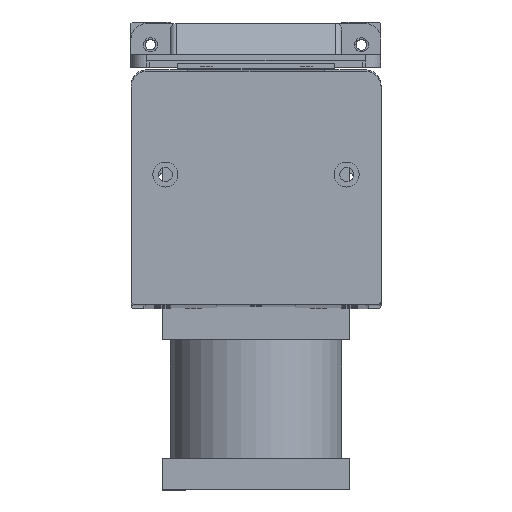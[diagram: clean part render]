
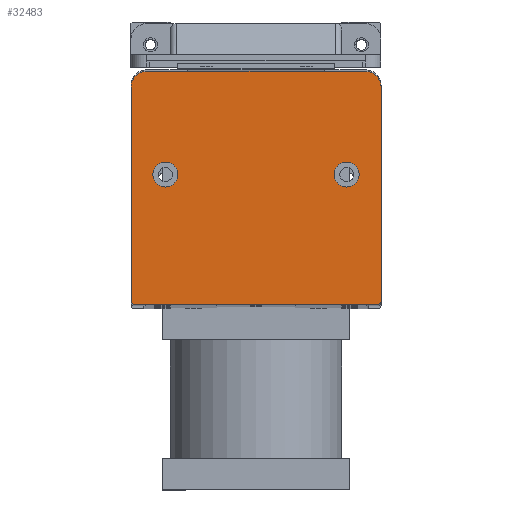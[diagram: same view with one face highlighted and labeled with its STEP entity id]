
A CAD part, top view. The second image highlights one B-rep face of the part: STEP entity #32483.
In plain terms, the highlighted planar face has unit normal (0, 0, 1).
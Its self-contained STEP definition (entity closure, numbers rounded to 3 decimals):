
#85 = DIRECTION ( 'NONE',  ( 1., 0., 0. ) ) ;
#191 = EDGE_LOOP ( 'NONE', ( #30785, #29824 ) ) ;
#502 = AXIS2_PLACEMENT_3D ( 'NONE', #11488, #29528, #14106 ) ;
#679 = ORIENTED_EDGE ( 'NONE', *, *, #20882, .T. ) ;
#1172 = VERTEX_POINT ( 'NONE', #14876 ) ;
#1366 = ORIENTED_EDGE ( 'NONE', *, *, #31028, .F. ) ;
#1560 = CARTESIAN_POINT ( 'NONE',  ( 7., 41.5, 10. ) ) ;
#1722 = CARTESIAN_POINT ( 'NONE',  ( 69., 41.5, 10. ) ) ;
#2018 = CIRCLE ( 'NONE', #24853, 4. ) ;
#2083 = EDGE_CURVE ( 'NONE', #1172, #32348, #31795, .T. ) ;
#3447 = DIRECTION ( 'NONE',  ( 0., 0., 1. ) ) ;
#3546 = CARTESIAN_POINT ( 'NONE',  ( 69., 41.5, 10. ) ) ;
#4196 = LINE ( 'NONE', #11334, #11828 ) ;
#4269 = DIRECTION ( 'NONE',  ( 1., 0., 0. ) ) ;
#4652 = CARTESIAN_POINT ( 'NONE',  ( 65., 41.5, 10. ) ) ;
#4994 = EDGE_CURVE ( 'NONE', #19519, #20324, #22262, .T. ) ;
#5008 = CARTESIAN_POINT ( 'NONE',  ( 80., 69.5, 10. ) ) ;
#5036 = DIRECTION ( 'NONE',  ( 0., 0., 1. ) ) ;
#5340 = DIRECTION ( 'NONE',  ( 0., 0., 1. ) ) ;
#5434 = CARTESIAN_POINT ( 'NONE',  ( 15., 41.5, 10. ) ) ;
#5517 = LINE ( 'NONE', #27929, #11541 ) ;
#5624 = CIRCLE ( 'NONE', #13478, 1. ) ;
#6106 = DIRECTION ( 'NONE',  ( 1., 0., 0. ) ) ;
#6753 = AXIS2_PLACEMENT_3D ( 'NONE', #20497, #5036, #23111 ) ;
#7050 = EDGE_CURVE ( 'NONE', #10091, #7713, #5517, .T. ) ;
#7428 = CARTESIAN_POINT ( 'NONE',  ( 0., 74.5, 10. ) ) ;
#7713 = VERTEX_POINT ( 'NONE', #5008 ) ;
#7960 = CARTESIAN_POINT ( 'NONE',  ( 11., 41.5, 10. ) ) ;
#8545 = CARTESIAN_POINT ( 'NONE',  ( 0., 1., 10. ) ) ;
#8720 = AXIS2_PLACEMENT_3D ( 'NONE', #28314, #12858, #30901 ) ;
#9891 = DIRECTION ( 'NONE',  ( 0., 1., 0. ) ) ;
#10027 = DIRECTION ( 'NONE',  ( 0., -1., 0. ) ) ;
#10091 = VERTEX_POINT ( 'NONE', #11479 ) ;
#10545 = DIRECTION ( 'NONE',  ( 1., 0., 0. ) ) ;
#10631 = CARTESIAN_POINT ( 'NONE',  ( 5., 74.5, 10. ) ) ;
#11226 = CARTESIAN_POINT ( 'NONE',  ( 1., 0., 10. ) ) ;
#11334 = CARTESIAN_POINT ( 'NONE',  ( 80., 74.5, 10. ) ) ;
#11479 = CARTESIAN_POINT ( 'NONE',  ( 80., 1., 10. ) ) ;
#11488 = CARTESIAN_POINT ( 'NONE',  ( 11., 41.5, 10. ) ) ;
#11541 = VECTOR ( 'NONE', #9891, 1000. ) ;
#11712 = LINE ( 'NONE', #7428, #30677 ) ;
#11828 = VECTOR ( 'NONE', #26786, 1000. ) ;
#11854 = DIRECTION ( 'NONE',  ( 1., 0., 0. ) ) ;
#12263 = CIRCLE ( 'NONE', #502, 4. ) ;
#12858 = DIRECTION ( 'NONE',  ( 0., 0., 1. ) ) ;
#13478 = AXIS2_PLACEMENT_3D ( 'NONE', #18880, #3447, #21488 ) ;
#13602 = ORIENTED_EDGE ( 'NONE', *, *, #4994, .T. ) ;
#13704 = ORIENTED_EDGE ( 'NONE', *, *, #25152, .F. ) ;
#13736 = VERTEX_POINT ( 'NONE', #1560 ) ;
#14044 = ORIENTED_EDGE ( 'NONE', *, *, #19269, .T. ) ;
#14106 = DIRECTION ( 'NONE',  ( 1., 0., 0. ) ) ;
#14815 = CARTESIAN_POINT ( 'NONE',  ( 79., 0., 10. ) ) ;
#14876 = CARTESIAN_POINT ( 'NONE',  ( 73., 41.5, 10. ) ) ;
#14925 = VERTEX_POINT ( 'NONE', #8545 ) ;
#15328 = CIRCLE ( 'NONE', #6753, 5. ) ;
#15483 = DIRECTION ( 'NONE',  ( 0., 0., 1. ) ) ;
#16024 = EDGE_CURVE ( 'NONE', #20324, #10091, #29297, .T. ) ;
#17795 = CARTESIAN_POINT ( 'NONE',  ( 75., 74.5, 10. ) ) ;
#18406 = ORIENTED_EDGE ( 'NONE', *, *, #22598, .T. ) ;
#18880 = CARTESIAN_POINT ( 'NONE',  ( 1., 1., 10. ) ) ;
#19269 = EDGE_CURVE ( 'NONE', #26722, #14925, #11712, .T. ) ;
#19519 = VERTEX_POINT ( 'NONE', #11226 ) ;
#19720 = DIRECTION ( 'NONE',  ( 0., 0., 1. ) ) ;
#19770 = CARTESIAN_POINT ( 'NONE',  ( 0., 69.5, 10. ) ) ;
#19826 = EDGE_CURVE ( 'NONE', #32042, #26722, #15328, .T. ) ;
#19829 = FACE_BOUND ( 'NONE', #29407, .T. ) ;
#20324 = VERTEX_POINT ( 'NONE', #14815 ) ;
#20497 = CARTESIAN_POINT ( 'NONE',  ( 5., 69.5, 10. ) ) ;
#20521 = EDGE_CURVE ( 'NONE', #14925, #19519, #5624, .T. ) ;
#20552 = CARTESIAN_POINT ( 'NONE',  ( 0., 0., 10. ) ) ;
#20644 = FACE_BOUND ( 'NONE', #191, .T. ) ;
#20806 = CARTESIAN_POINT ( 'NONE',  ( 79., 1., 10. ) ) ;
#20882 = EDGE_CURVE ( 'NONE', #7713, #27826, #24920, .T. ) ;
#21488 = DIRECTION ( 'NONE',  ( 1., 0., 0. ) ) ;
#21586 = DIRECTION ( 'NONE',  ( 0., 0., 1. ) ) ;
#21615 = AXIS2_PLACEMENT_3D ( 'NONE', #7960, #26014, #10545 ) ;
#21619 = ORIENTED_EDGE ( 'NONE', *, *, #7050, .T. ) ;
#22262 = LINE ( 'NONE', #27287, #27456 ) ;
#22598 = EDGE_CURVE ( 'NONE', #27826, #32042, #4196, .T. ) ;
#23111 = DIRECTION ( 'NONE',  ( 1., 0., 0. ) ) ;
#23401 = DIRECTION ( 'NONE',  ( 1., 0., 0. ) ) ;
#24853 = AXIS2_PLACEMENT_3D ( 'NONE', #3546, #21586, #6106 ) ;
#24920 = CIRCLE ( 'NONE', #8720, 5. ) ;
#25152 = EDGE_CURVE ( 'NONE', #13736, #28551, #32225, .T. ) ;
#25842 = EDGE_CURVE ( 'NONE', #32348, #1172, #2018, .T. ) ;
#26014 = DIRECTION ( 'NONE',  ( 0., 0., 1. ) ) ;
#26650 = FACE_OUTER_BOUND ( 'NONE', #31397, .T. ) ;
#26722 = VERTEX_POINT ( 'NONE', #19770 ) ;
#26786 = DIRECTION ( 'NONE',  ( -1., 0., 0. ) ) ;
#27287 = CARTESIAN_POINT ( 'NONE',  ( 0., 0., 10. ) ) ;
#27456 = VECTOR ( 'NONE', #11854, 1000. ) ;
#27826 = VERTEX_POINT ( 'NONE', #17795 ) ;
#27929 = CARTESIAN_POINT ( 'NONE',  ( 80., 0., 10. ) ) ;
#28314 = CARTESIAN_POINT ( 'NONE',  ( 75., 69.5, 10. ) ) ;
#28324 = PLANE ( 'NONE',  #29379 ) ;
#28551 = VERTEX_POINT ( 'NONE', #5434 ) ;
#28863 = AXIS2_PLACEMENT_3D ( 'NONE', #1722, #19720, #4269 ) ;
#29297 = CIRCLE ( 'NONE', #29405, 1. ) ;
#29379 = AXIS2_PLACEMENT_3D ( 'NONE', #20552, #15483, #85 ) ;
#29405 = AXIS2_PLACEMENT_3D ( 'NONE', #20806, #5340, #23401 ) ;
#29407 = EDGE_LOOP ( 'NONE', ( #1366, #13704 ) ) ;
#29528 = DIRECTION ( 'NONE',  ( 0., 0., 1. ) ) ;
#29824 = ORIENTED_EDGE ( 'NONE', *, *, #25842, .F. ) ;
#30404 = ORIENTED_EDGE ( 'NONE', *, *, #20521, .T. ) ;
#30467 = ORIENTED_EDGE ( 'NONE', *, *, #16024, .T. ) ;
#30677 = VECTOR ( 'NONE', #10027, 1000. ) ;
#30785 = ORIENTED_EDGE ( 'NONE', *, *, #2083, .F. ) ;
#30901 = DIRECTION ( 'NONE',  ( 1., 0., 0. ) ) ;
#31028 = EDGE_CURVE ( 'NONE', #28551, #13736, #12263, .T. ) ;
#31397 = EDGE_LOOP ( 'NONE', ( #21619, #679, #18406, #32631, #14044, #30404, #13602, #30467 ) ) ;
#31795 = CIRCLE ( 'NONE', #28863, 4. ) ;
#32042 = VERTEX_POINT ( 'NONE', #10631 ) ;
#32225 = CIRCLE ( 'NONE', #21615, 4. ) ;
#32348 = VERTEX_POINT ( 'NONE', #4652 ) ;
#32483 = ADVANCED_FACE ( 'NONE', ( #20644, #19829, #26650 ), #28324, .T. ) ;
#32631 = ORIENTED_EDGE ( 'NONE', *, *, #19826, .T. ) ;
